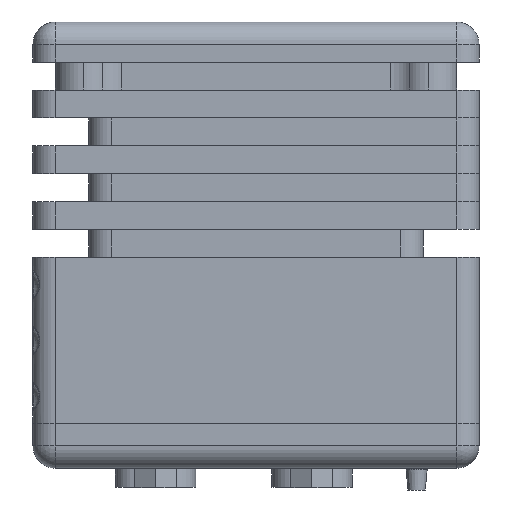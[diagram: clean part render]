
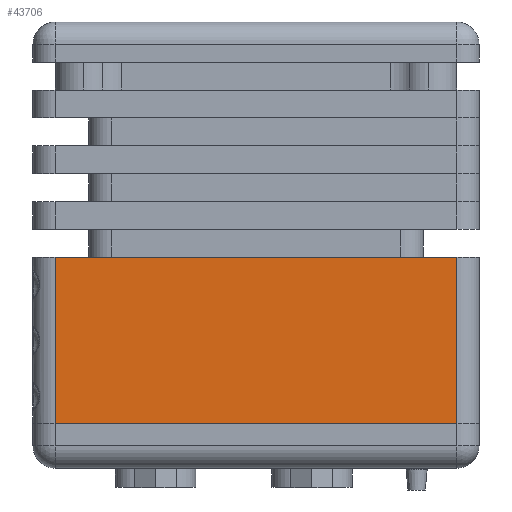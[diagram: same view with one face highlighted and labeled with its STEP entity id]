
A CAD part, left-side view. The second image highlights one B-rep face of the part: STEP entity #43706.
In plain terms, the highlighted planar face has unit normal (-1, 0, 0).
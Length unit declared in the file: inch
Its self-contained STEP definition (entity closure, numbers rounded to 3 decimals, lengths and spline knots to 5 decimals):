
#7630 = CARTESIAN_POINT ( 'NONE',  ( -1., 0.9, -0.875 ) ) ;
#23592 = DIRECTION ( 'NONE',  ( 0., 0., 1. ) ) ;
#24643 = CARTESIAN_POINT ( 'NONE',  ( -1., 1., -1.62 ) ) ;
#35796 = LINE ( 'NONE', #58397, #81063 ) ;
#40616 = CARTESIAN_POINT ( 'NONE',  ( -1., 1., -2. ) ) ;
#43706 = ADVANCED_FACE ( 'NONE', ( #124465 ), #150943, .F. ) ;
#47140 = LINE ( 'NONE', #156637, #79988 ) ;
#54262 = CARTESIAN_POINT ( 'NONE',  ( -1., -0.9, -1.62 ) ) ;
#57642 = DIRECTION ( 'NONE',  ( 0., 1., 0. ) ) ;
#58397 = CARTESIAN_POINT ( 'NONE',  ( -1., 0.9, -2. ) ) ;
#58978 = EDGE_CURVE ( 'NONE', #61416, #155529, #72225, .T. ) ;
#61416 = VERTEX_POINT ( 'NONE', #91060 ) ;
#63265 = EDGE_CURVE ( 'NONE', #98373, #61416, #35796, .T. ) ;
#72030 = LINE ( 'NONE', #134109, #150960 ) ;
#72225 = LINE ( 'NONE', #24643, #87783 ) ;
#77674 = DIRECTION ( 'NONE',  ( 0., -1., 0. ) ) ;
#79988 = VECTOR ( 'NONE', #57642, 39.37008 ) ;
#81063 = VECTOR ( 'NONE', #105939, 39.37008 ) ;
#81174 = ORIENTED_EDGE ( 'NONE', *, *, #58978, .T. ) ;
#81676 = AXIS2_PLACEMENT_3D ( 'NONE', #40616, #138903, #77674 ) ;
#84880 = VERTEX_POINT ( 'NONE', #113489 ) ;
#87783 = VECTOR ( 'NONE', #98018, 39.37008 ) ;
#91060 = CARTESIAN_POINT ( 'NONE',  ( -1., 0.9, -1.62 ) ) ;
#98018 = DIRECTION ( 'NONE',  ( 0., -1., 0. ) ) ;
#98373 = VERTEX_POINT ( 'NONE', #7630 ) ;
#99508 = EDGE_CURVE ( 'NONE', #155529, #84880, #72030, .T. ) ;
#105939 = DIRECTION ( 'NONE',  ( 0., 0., -1. ) ) ;
#111748 = ORIENTED_EDGE ( 'NONE', *, *, #63265, .T. ) ;
#113489 = CARTESIAN_POINT ( 'NONE',  ( -1., -0.9, -0.875 ) ) ;
#124465 = FACE_OUTER_BOUND ( 'NONE', #147593, .T. ) ;
#126174 = ORIENTED_EDGE ( 'NONE', *, *, #99508, .T. ) ;
#129962 = ORIENTED_EDGE ( 'NONE', *, *, #144175, .T. ) ;
#134109 = CARTESIAN_POINT ( 'NONE',  ( -1., -0.9, -2. ) ) ;
#138903 = DIRECTION ( 'NONE',  ( 1., 0., 0. ) ) ;
#144175 = EDGE_CURVE ( 'NONE', #84880, #98373, #47140, .T. ) ;
#147593 = EDGE_LOOP ( 'NONE', ( #111748, #81174, #126174, #129962 ) ) ;
#150943 = PLANE ( 'NONE',  #81676 ) ;
#150960 = VECTOR ( 'NONE', #23592, 39.37008 ) ;
#155529 = VERTEX_POINT ( 'NONE', #54262 ) ;
#156637 = CARTESIAN_POINT ( 'NONE',  ( -1., -1., -0.875 ) ) ;
